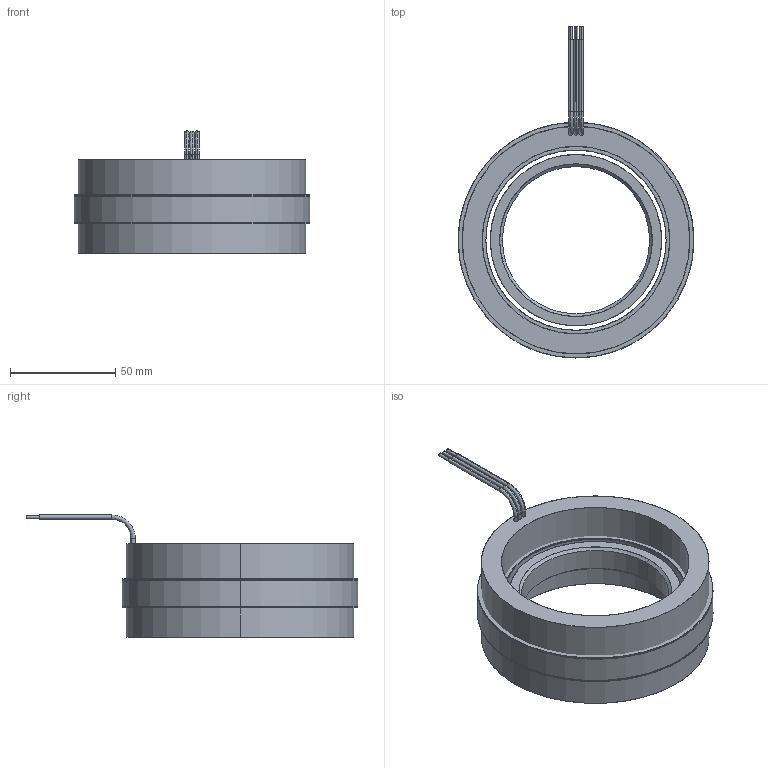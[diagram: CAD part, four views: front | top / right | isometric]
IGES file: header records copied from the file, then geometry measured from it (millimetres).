
Start section: SolidWorks IGES file using analytic representation for surfaces
Global section: file name: \\fs01.aveox.local\user documents\eng\My Documents\STANDARD STATOR ROTOR SETS\Standard rotor and stator set released\4.4 inch stator diameter\6100255-07.IGS; native system: SolidWorks 2016; preprocessor: SolidWorks 2016; author: eng; date: 191111.094327; units: millimetre
Bounding box: 111.76 x 157.42 x 57.91 mm (x, y, z)
Surface area: 91941.3 mm2 (no closed solid volume)
Topology: 0 solids, 0 shells, 76 faces, 2256 edges, 2256 vertices
Faces by surface type: revolution 50, bspline 26
